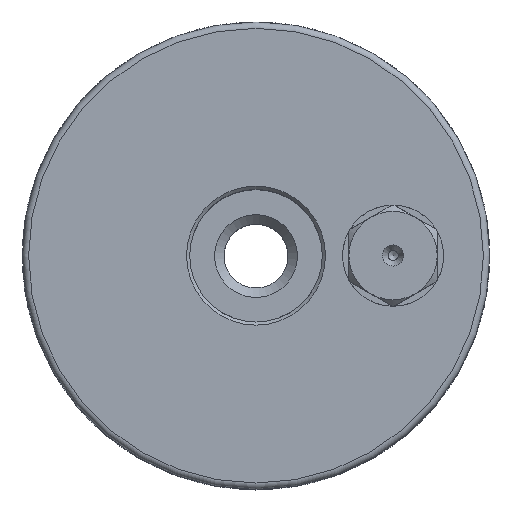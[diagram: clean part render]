
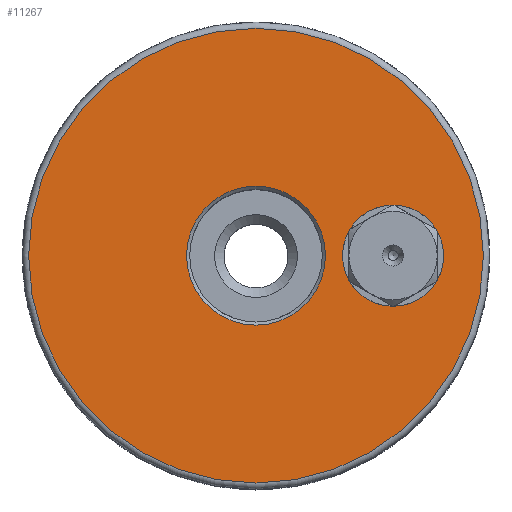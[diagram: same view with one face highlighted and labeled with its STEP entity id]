
A CAD part, top view. The second image highlights one B-rep face of the part: STEP entity #11267.
In plain terms, the highlighted planar face has unit normal (0, 0, 1).
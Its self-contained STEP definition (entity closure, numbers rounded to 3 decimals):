
#457=PLANE('',#12479);
#3126=CIRCLE('',#12480,11.);
#3127=CIRCLE('',#12481,36.);
#3128=CIRCLE('',#12482,8.);
#6175=ORIENTED_EDGE('',*,*,#7885,.T.);
#6176=ORIENTED_EDGE('',*,*,#7886,.T.);
#6177=ORIENTED_EDGE('',*,*,#7887,.F.);
#7885=EDGE_CURVE('',#9012,#9012,#3126,.F.);
#7886=EDGE_CURVE('',#9013,#9013,#3127,.T.);
#7887=EDGE_CURVE('',#9014,#9014,#3128,.T.);
#9012=VERTEX_POINT('',#19081);
#9013=VERTEX_POINT('',#19083);
#9014=VERTEX_POINT('',#19085);
#9734=EDGE_LOOP('',(#6175));
#9735=EDGE_LOOP('',(#6176));
#9736=EDGE_LOOP('',(#6177));
#10436=FACE_BOUND('',#9734,.T.);
#10437=FACE_BOUND('',#9735,.T.);
#10438=FACE_BOUND('',#9736,.T.);
#11267=ADVANCED_FACE('',(#10436,#10437,#10438),#457,.T.);
#12479=AXIS2_PLACEMENT_3D('',#19079,#15530,#15531);
#12480=AXIS2_PLACEMENT_3D('',#19080,#15532,#15533);
#12481=AXIS2_PLACEMENT_3D('',#19082,#15534,#15535);
#12482=AXIS2_PLACEMENT_3D('',#19084,#15536,#15537);
#15530=DIRECTION('',(0.,0.,1.));
#15531=DIRECTION('',(1.,0.,0.));
#15532=DIRECTION('',(0.,0.,1.));
#15533=DIRECTION('',(1.,0.,0.));
#15534=DIRECTION('',(0.,0.,1.));
#15535=DIRECTION('',(1.,0.,0.));
#15536=DIRECTION('',(0.,0.,1.));
#15537=DIRECTION('',(1.,0.,0.));
#19079=CARTESIAN_POINT('',(10.5,0.,34.));
#19080=CARTESIAN_POINT('',(0.,0.,34.));
#19081=CARTESIAN_POINT('',(11.,0.,34.));
#19082=CARTESIAN_POINT('',(0.,0.,34.));
#19083=CARTESIAN_POINT('',(36.,0.,34.));
#19084=CARTESIAN_POINT('',(21.7,0.,34.));
#19085=CARTESIAN_POINT('',(29.7,0.,34.));
